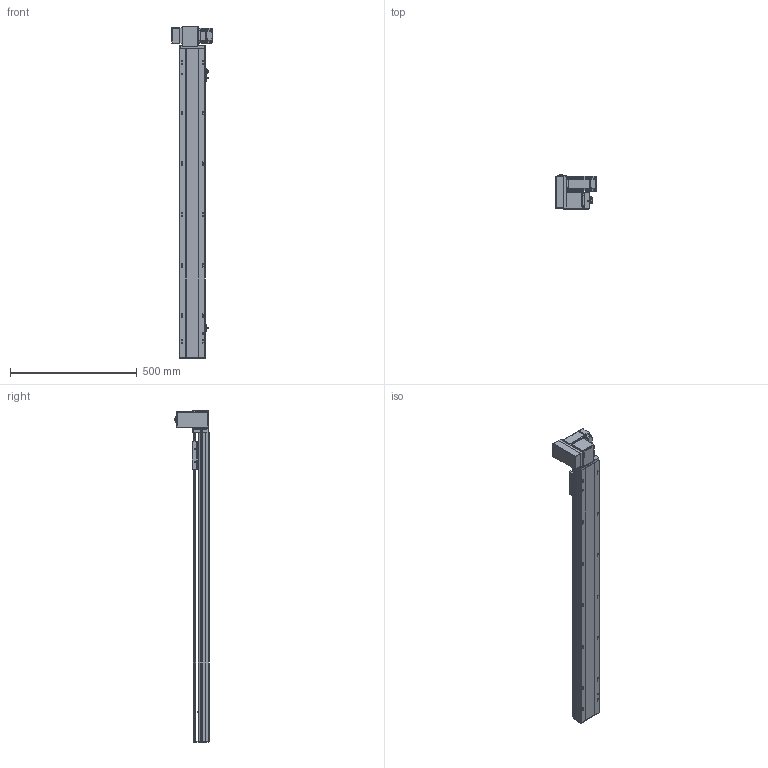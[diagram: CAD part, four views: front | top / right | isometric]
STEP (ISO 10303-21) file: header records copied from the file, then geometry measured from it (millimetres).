
FILE_DESCRIPTION (( 'STEP AP214' ), '1' );
FILE_NAME ('TPT10-L41.6-1000-LU-T20-C4.STEP', '2023-03-02T07:11:10', ( '' ), ( '' ), 'SwSTEP 2.0', 'SolidWorks 2020', '' );
FILE_SCHEMA (( 'AUTOMOTIVE_DESIGN' ));
Length unit declared in the file: millimetre
Products named in the file (11): 葩璃 TPT10-L-001 菁釱MZ-102A-01^TPT10-L41.6-LU-T20-C4; 侂狟400W; 葩璃 TPT10-L-005 賑釱MZ-102A-03^TPT10-L41.6-LU-T20-C4; 葩璃 TPT10-L-009 萇儂啣^TPT10-L41.6-LU-T20-C4_100W; 葩璃 pm-t65-672^TPT10-L41.6-LU-T20-C4; hexagon socket head cap screws gb_GB_FASTENER_SCREWS_HSHCS M3X6-N; hex nuts, style 1-grades ab gb_GB_FASTENER_NUT_SNAB1 M3-N; 葩璃 TPT10-L-007 々湍釱MZ-169x88^TPT10-L41.6-LU-T20-C4_L; TPT10-L41.6-1000-LU-T20-C4; hexagon head bolts-full thread gb_GB_FASTENER_BOLT_STBAB A M5X16-N; 葩璃 TPT10-L-002 奻裔MZ-102A-02^TPT10-L41.6-LU-T20-C4
Assembly tree (22 placements, depth 2):
  TPT10-L41.6-1000-LU-T20-C4
    葩璃 TPT10-L-001 菁釱MZ-102A-01^TPT10-L41.6-LU-T20-C4
    葩璃 TPT10-L-002 奻裔MZ-102A-02^TPT10-L41.6-LU-T20-C4
    葩璃 TPT10-L-007 々湍釱MZ-169x88^TPT10-L41.6-LU-T20-C4_L
    葩璃 TPT10-L-005 賑釱MZ-102A-03^TPT10-L41.6-LU-T20-C4
    葩璃 TPT10-L-009 萇儂啣^TPT10-L41.6-LU-T20-C4_100W
    葩璃 pm-t65-672^TPT10-L41.6-LU-T20-C4  x3
    侂狟400W
    hexagon head bolts-full thread gb_GB_FASTENER_BOLT_STBAB A M5X16-N
    hexagon socket head cap screws gb_GB_FASTENER_SCREWS_HSHCS M3X6-N  x6
    hex nuts, style 1-grades ab gb_GB_FASTENER_NUT_SNAB1 M3-N  x6
Bounding box: 160.5 x 134.65 x 1310 mm (x, y, z)
Volume: 4382085.9 mm3; surface area: 879666.1 mm2
Topology: 30 solids, 30 shells, 1704 faces, 4451 edges, 2832 vertices
Faces by surface type: plane 952, cylinder 524, cone 190, bspline 26, torus 12
Entity records: 41625 total; most frequent: CARTESIAN_POINT 8152, DIRECTION 6736, ORIENTED_EDGE 6514, EDGE_CURVE 3257, AXIS2_PLACEMENT_3D 2347, VERTEX_POINT 2123, VECTOR 2042, LINE 2042
